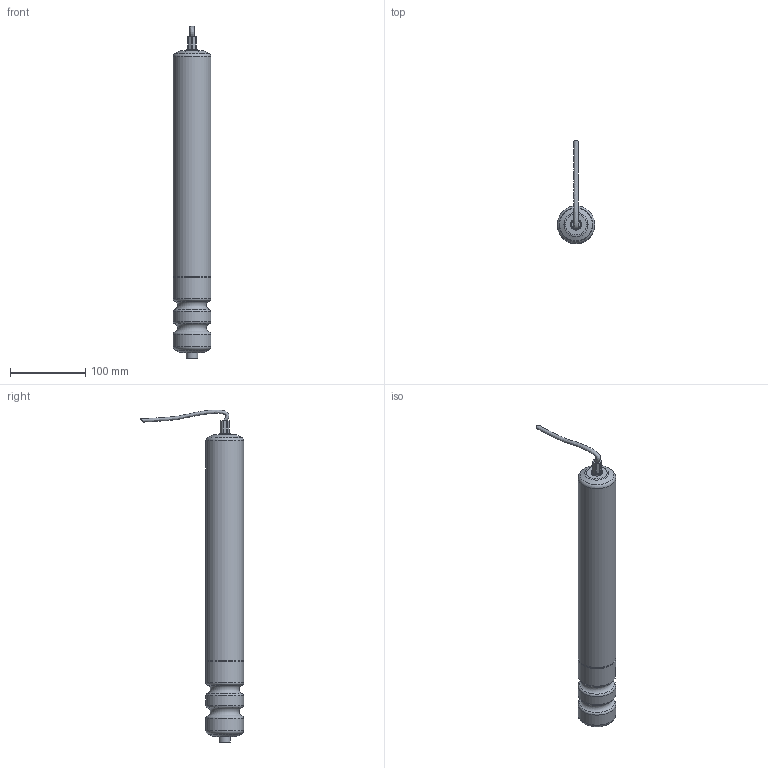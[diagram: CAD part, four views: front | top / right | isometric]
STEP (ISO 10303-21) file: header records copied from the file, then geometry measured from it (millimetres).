
FILE_DESCRIPTION(/* description */ ('Motorrol EC310 i=24'),/* implementation_level */ '2;1');
FILE_NAME(/* name */ 'EM8300050410-01.stp',/* time_stamp */ '2024-03-13T15:23:32+01:00',/* author */ ('rdegreef'),/* organization */ ('BCK Holland b.v.'),/* preprocessor_version */ 'ST-DEVELOPER v19.2',/* originating_system */ 'Autodesk Inventor 2023',/* authorisation */ '');
FILE_SCHEMA (('AUTOMOTIVE_DESIGN { 1 0 10303 214 3 1 1 }'));
Length unit declared in the file: millimetre
Products named in the file (1): EM8300050410
Bounding box: 50 x 137.12 x 440.95 mm (x, y, z)
Volume: 69662 mm3; surface area: 133216.7 mm2
Topology: 1 solids, 2 shells, 69 faces, 149 edges, 94 vertices
Faces by surface type: cylinder 22, plane 20, torus 20, cone 6, bspline 1
Full cylindrical faces by diameter (mm): 6.647 x1, 8.647 x1, 13 x2, 15 x2, 47.5 x1, 48 x4, 49.5 x1, 50 x4
Entity records: 2923 total; most frequent: CARTESIAN_POINT 1197, DIRECTION 384, ORIENTED_EDGE 294, AXIS2_PLACEMENT_3D 169, EDGE_CURVE 147, CIRCLE 100, VERTEX_POINT 94, EDGE_LOOP 81
